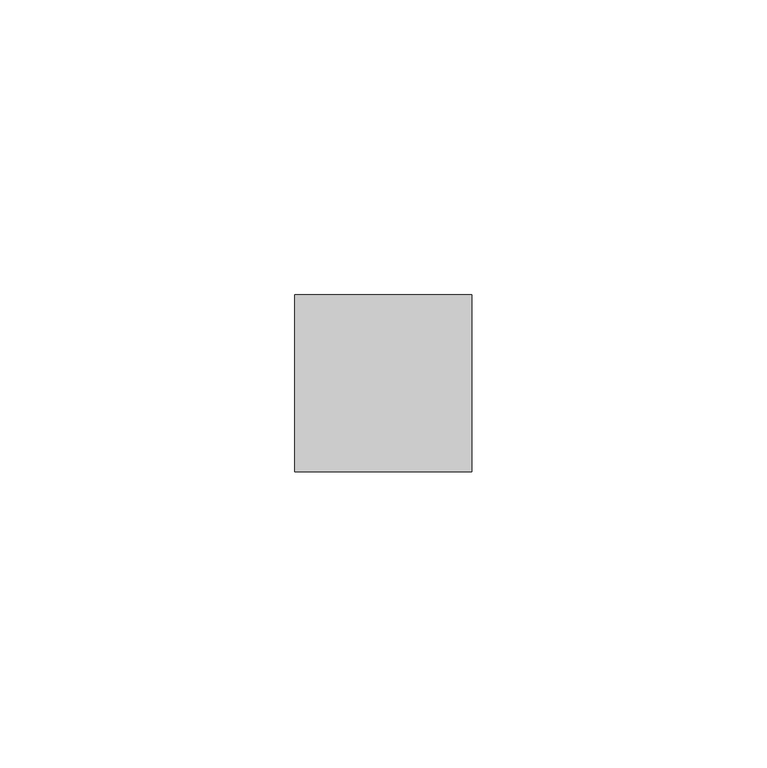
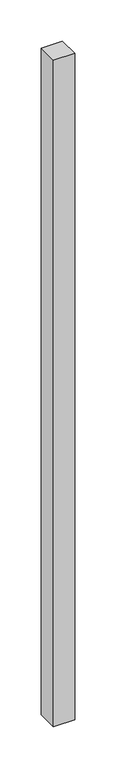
"""IFC4 building model written with IfcOpenShell, lengths in millimetres: member geometry, 矩形竖梃 : 30mm 正方形."""

from ifc_helpers import new_model, si_unit, frame, origin, place, context, project, spatial, polyline, outline, extrude, source, transform, mapped, element, save


def member_4cd86211(model_context):
    return source(origin(), model_context, "Body", "SweptSolid", [
        extrude(outline(polyline([(15.0, 15.0), (15.0, -15.0), (-15.0, -15.0), (-15.0, 15.0), (15.0, 15.0)])), frame((0.0, 0.0, -990.0), z_axis=(0.0, 0.0, 1.0), x_axis=(1.0, 0.0, 0.0)), (0.0, 0.0, 1.0), 990.0),
    ])


if __name__ == "__main__":
    model = new_model("IFC4")
    model_context = context("Model", 3, world=origin())
    ifc_project = project(units=[si_unit("LENGTHUNIT", "METRE", prefix="MILLI")], contexts=[model_context])
    site = spatial("IfcSite", under=ifc_project)
    building = spatial("IfcBuilding", under=site)
    placement = place(None, origin())
    member_shape = member_4cd86211(model_context)
    element("IfcMember", 1, ObjectType="矩形竖梃 : 30mm 正方形", at=placement, inside=building, context=model_context, shape_type="MappedRepresentation", body=[
        mapped(member_shape, transform((0.0, 0.0, 0.0), x_axis=(1.0, 0.0, 0.0), y_axis=(0.0, 1.0, 0.0), z_axis=(0.0, 0.0, 1.0))),
    ])
    save(model, "model.ifc")
